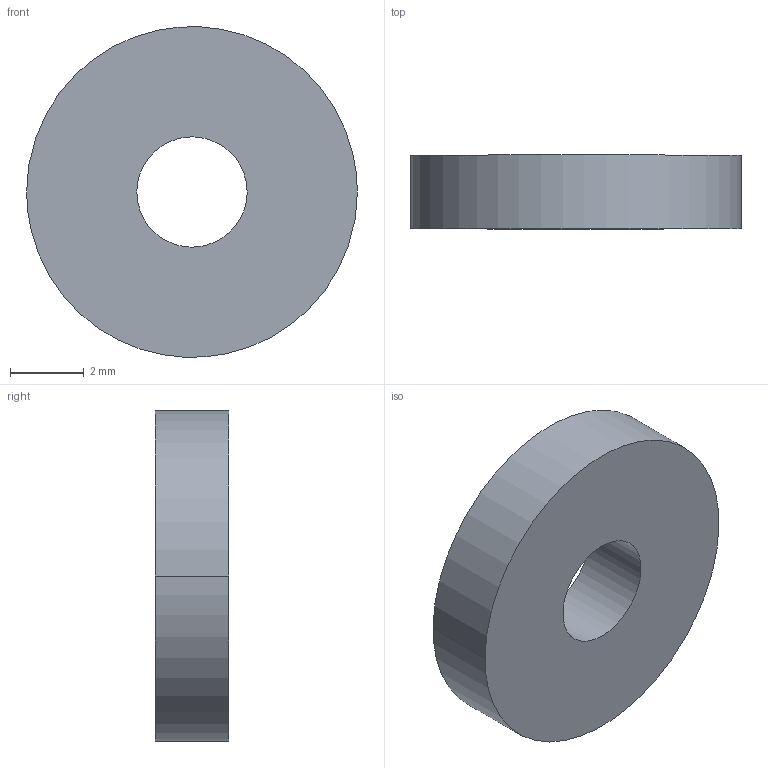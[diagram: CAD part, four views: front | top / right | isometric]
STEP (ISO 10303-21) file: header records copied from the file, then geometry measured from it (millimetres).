
FILE_DESCRIPTION(/* description */ (''),/* implementation_level */ '2;1');
FILE_NAME(/* name */ 'ARGOLL~1',/* time_stamp */ '2019-04-01T20:12:28-03:00',/* author */ (''),/* organization */ (''),/* preprocessor_version */ 'ST-DEVELOPER v16.5',/* originating_system */ '',/* authorisation */ '');
FILE_SCHEMA (('AUTOMOTIVE_DESIGN'));
Length unit declared in the file: millimetre
Products named in the file (1): Document
Bounding box: 9 x 2 x 8.99 mm (x, y, z)
Volume: 113.4 mm3; surface area: 188.9 mm2
Topology: 1 solids, 1 shells, 6 faces, 12 edges, 8 vertices
Faces by surface type: bspline 4, plane 2
Entity records: 197 total; most frequent: CARTESIAN_POINT 100, ORIENTED_EDGE 24, EDGE_CURVE 12, EDGE_LOOP 8, VERTEX_POINT 8, ADVANCED_FACE 6, FACE_OUTER_BOUND 6, DIRECTION 6
